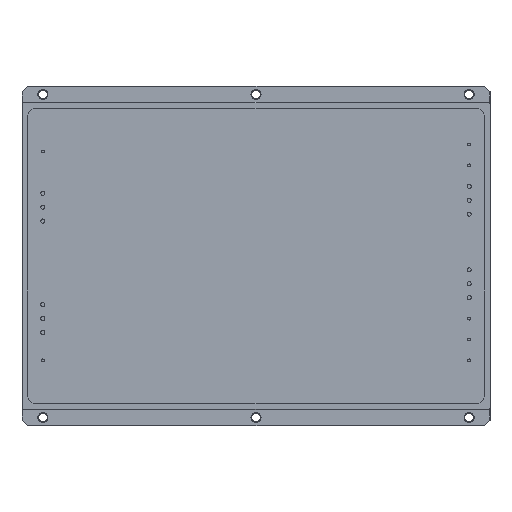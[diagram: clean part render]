
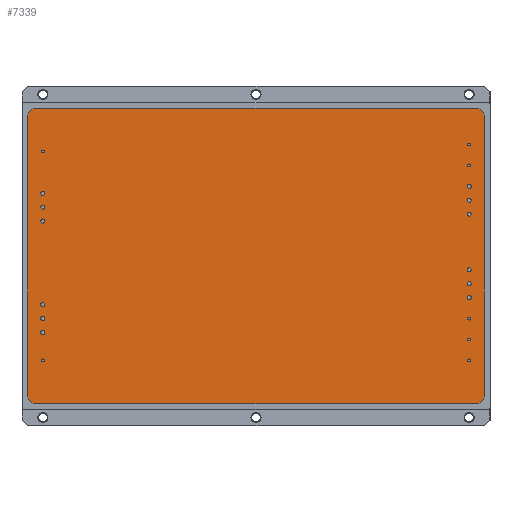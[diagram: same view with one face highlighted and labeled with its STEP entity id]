
A CAD part, top view. The second image highlights one B-rep face of the part: STEP entity #7339.
In plain terms, the highlighted planar face has unit normal (0, 0, 1).
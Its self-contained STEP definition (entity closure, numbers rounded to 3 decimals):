
#7339=ADVANCED_FACE('',(#14017,#14019,#14021,#14023,#14025,#14027,#14029,#14031,
#14033,#14035,#14037,#14039,#14041,#14043,#14045,#14047,#14049,#14051,#14053,#14055),
#14057,.T.);
#14017=FACE_BOUND('',#14018,.T.);
#14018=EDGE_LOOP('',(#19522,#19523,#19524,#19525,#19526,#19527,#19528,#19529));
#14019=FACE_BOUND('',#14020,.T.);
#14020=EDGE_LOOP('',(#19530));
#14021=FACE_BOUND('',#14022,.T.);
#14022=EDGE_LOOP('',(#19531));
#14023=FACE_BOUND('',#14024,.T.);
#14024=EDGE_LOOP('',(#19532));
#14025=FACE_BOUND('',#14026,.T.);
#14026=EDGE_LOOP('',(#19533));
#14027=FACE_BOUND('',#14028,.T.);
#14028=EDGE_LOOP('',(#19534));
#14029=FACE_BOUND('',#14030,.T.);
#14030=EDGE_LOOP('',(#19535));
#14031=FACE_BOUND('',#14032,.T.);
#14032=EDGE_LOOP('',(#19536));
#14033=FACE_BOUND('',#14034,.T.);
#14034=EDGE_LOOP('',(#19537));
#14035=FACE_BOUND('',#14036,.T.);
#14036=EDGE_LOOP('',(#19538));
#14037=FACE_BOUND('',#14038,.T.);
#14038=EDGE_LOOP('',(#19539));
#14039=FACE_BOUND('',#14040,.T.);
#14040=EDGE_LOOP('',(#19540));
#14041=FACE_BOUND('',#14042,.T.);
#14042=EDGE_LOOP('',(#19541));
#14043=FACE_BOUND('',#14044,.T.);
#14044=EDGE_LOOP('',(#19542));
#14045=FACE_BOUND('',#14046,.T.);
#14046=EDGE_LOOP('',(#19543));
#14047=FACE_BOUND('',#14048,.T.);
#14048=EDGE_LOOP('',(#19544));
#14049=FACE_BOUND('',#14050,.T.);
#14050=EDGE_LOOP('',(#19545));
#14051=FACE_BOUND('',#14052,.T.);
#14052=EDGE_LOOP('',(#19546));
#14053=FACE_BOUND('',#14054,.T.);
#14054=EDGE_LOOP('',(#19547));
#14055=FACE_BOUND('',#14056,.T.);
#14056=EDGE_LOOP('',(#19548));
#14057=PLANE('',#14058);
#14058=AXIS2_PLACEMENT_3D('',#14059,#14060,#14061);
#14059=CARTESIAN_POINT('',(0.,0.,15.8));
#14060=DIRECTION('',(0.,0.,1.));
#14061=DIRECTION('',(1.,0.,0.));
#19522=ORIENTED_EDGE('',*,*,#22201,.T.);
#19523=ORIENTED_EDGE('',*,*,#22215,.T.);
#19524=ORIENTED_EDGE('',*,*,#22213,.T.);
#19525=ORIENTED_EDGE('',*,*,#22211,.T.);
#19526=ORIENTED_EDGE('',*,*,#22209,.T.);
#19527=ORIENTED_EDGE('',*,*,#22207,.T.);
#19528=ORIENTED_EDGE('',*,*,#22205,.T.);
#19529=ORIENTED_EDGE('',*,*,#22203,.T.);
#19530=ORIENTED_EDGE('',*,*,#22216,.F.);
#19531=ORIENTED_EDGE('',*,*,#22217,.F.);
#19532=ORIENTED_EDGE('',*,*,#22218,.F.);
#19533=ORIENTED_EDGE('',*,*,#22219,.F.);
#19534=ORIENTED_EDGE('',*,*,#22220,.F.);
#19535=ORIENTED_EDGE('',*,*,#22221,.F.);
#19536=ORIENTED_EDGE('',*,*,#22222,.F.);
#19537=ORIENTED_EDGE('',*,*,#22223,.F.);
#19538=ORIENTED_EDGE('',*,*,#22224,.F.);
#19539=ORIENTED_EDGE('',*,*,#22225,.F.);
#19540=ORIENTED_EDGE('',*,*,#22226,.F.);
#19541=ORIENTED_EDGE('',*,*,#22227,.F.);
#19542=ORIENTED_EDGE('',*,*,#22228,.F.);
#19543=ORIENTED_EDGE('',*,*,#22229,.F.);
#19544=ORIENTED_EDGE('',*,*,#22230,.F.);
#19545=ORIENTED_EDGE('',*,*,#22231,.F.);
#19546=ORIENTED_EDGE('',*,*,#22232,.F.);
#19547=ORIENTED_EDGE('',*,*,#22233,.F.);
#19548=ORIENTED_EDGE('',*,*,#22234,.F.);
#22201=EDGE_CURVE('',#26312,#26310,#26313,.T.);
#22203=EDGE_CURVE('',#26315,#26312,#26316,.T.);
#22205=EDGE_CURVE('',#26318,#26315,#26319,.T.);
#22207=EDGE_CURVE('',#26321,#26318,#26322,.T.);
#22209=EDGE_CURVE('',#26324,#26321,#26325,.T.);
#22211=EDGE_CURVE('',#26327,#26324,#26328,.T.);
#22213=EDGE_CURVE('',#26330,#26327,#26331,.T.);
#22215=EDGE_CURVE('',#26310,#26330,#26333,.T.);
#22216=EDGE_CURVE('',#26334,#26334,#26335,.T.);
#22217=EDGE_CURVE('',#26336,#26336,#26337,.T.);
#22218=EDGE_CURVE('',#26338,#26338,#26339,.T.);
#22219=EDGE_CURVE('',#26340,#26340,#26341,.T.);
#22220=EDGE_CURVE('',#26342,#26342,#26343,.T.);
#22221=EDGE_CURVE('',#26344,#26344,#26345,.T.);
#22222=EDGE_CURVE('',#26346,#26346,#26347,.T.);
#22223=EDGE_CURVE('',#26348,#26348,#26349,.T.);
#22224=EDGE_CURVE('',#26350,#26350,#26351,.T.);
#22225=EDGE_CURVE('',#26352,#26352,#26353,.T.);
#22226=EDGE_CURVE('',#26354,#26354,#26355,.T.);
#22227=EDGE_CURVE('',#26356,#26356,#26357,.T.);
#22228=EDGE_CURVE('',#26358,#26358,#26359,.T.);
#22229=EDGE_CURVE('',#26360,#26360,#26361,.T.);
#22230=EDGE_CURVE('',#26362,#26362,#26363,.T.);
#22231=EDGE_CURVE('',#26364,#26364,#26365,.T.);
#22232=EDGE_CURVE('',#26366,#26366,#26367,.T.);
#22233=EDGE_CURVE('',#26368,#26368,#26369,.T.);
#22234=EDGE_CURVE('',#26370,#26370,#26371,.T.);
#26310=VERTEX_POINT('',#36572);
#26312=VERTEX_POINT('',#36576);
#26313=LINE('',#36577,#36578);
#26315=VERTEX_POINT('',#36583);
#26316=CIRCLE('',#36584,3.);
#26318=VERTEX_POINT('',#36591);
#26319=LINE('',#36592,#36593);
#26321=VERTEX_POINT('',#36598);
#26322=CIRCLE('',#36599,3.);
#26324=VERTEX_POINT('',#36606);
#26325=LINE('',#36607,#36608);
#26327=VERTEX_POINT('',#36613);
#26328=CIRCLE('',#36614,3.);
#26330=VERTEX_POINT('',#36621);
#26331=LINE('',#36622,#36623);
#26333=CIRCLE('',#36628,3.);
#26334=VERTEX_POINT('',#36632);
#26335=CIRCLE('',#36633,0.75);
#26336=VERTEX_POINT('',#36637);
#26337=CIRCLE('',#36638,0.75);
#26338=VERTEX_POINT('',#36642);
#26339=CIRCLE('',#36643,0.75);
#26340=VERTEX_POINT('',#36647);
#26341=CIRCLE('',#36648,0.75);
#26342=VERTEX_POINT('',#36652);
#26343=CIRCLE('',#36653,0.75);
#26344=VERTEX_POINT('',#36657);
#26345=CIRCLE('',#36658,0.75);
#26346=VERTEX_POINT('',#36662);
#26347=CIRCLE('',#36663,0.75);
#26348=VERTEX_POINT('',#36667);
#26349=CIRCLE('',#36668,0.75);
#26350=VERTEX_POINT('',#36672);
#26351=CIRCLE('',#36673,0.75);
#26352=VERTEX_POINT('',#36677);
#26353=CIRCLE('',#36678,0.75);
#26354=VERTEX_POINT('',#36682);
#26355=CIRCLE('',#36683,0.75);
#26356=VERTEX_POINT('',#36687);
#26357=CIRCLE('',#36688,0.75);
#26358=VERTEX_POINT('',#36692);
#26359=CIRCLE('',#36693,0.5);
#26360=VERTEX_POINT('',#36697);
#26361=CIRCLE('',#36698,0.5);
#26362=VERTEX_POINT('',#36702);
#26363=CIRCLE('',#36703,0.5);
#26364=VERTEX_POINT('',#36707);
#26365=CIRCLE('',#36708,0.5);
#26366=VERTEX_POINT('',#36712);
#26367=CIRCLE('',#36713,0.5);
#26368=VERTEX_POINT('',#36717);
#26369=CIRCLE('',#36718,0.5);
#26370=VERTEX_POINT('',#36722);
#26371=CIRCLE('',#36723,0.5);
#36572=CARTESIAN_POINT('',(5.,114.,15.8));
#36576=CARTESIAN_POINT('',(163.,114.,15.8));
#36577=CARTESIAN_POINT('',(163.,114.,15.8));
#36578=VECTOR('',#36579,1.);
#36579=DIRECTION('',(-1.,0.,0.));
#36583=CARTESIAN_POINT('',(166.,111.,15.8));
#36584=AXIS2_PLACEMENT_3D('',#36585,#36586,#36587);
#36585=CARTESIAN_POINT('',(163.,111.,15.8));
#36586=DIRECTION('',(0.,0.,1.));
#36587=DIRECTION('',(1.,0.,0.));
#36591=CARTESIAN_POINT('',(166.,11.,15.8));
#36592=CARTESIAN_POINT('',(166.,11.,15.8));
#36593=VECTOR('',#36594,1.);
#36594=DIRECTION('',(0.,1.,0.));
#36598=CARTESIAN_POINT('',(163.,8.,15.8));
#36599=AXIS2_PLACEMENT_3D('',#36600,#36601,#36602);
#36600=CARTESIAN_POINT('',(163.,11.,15.8));
#36601=DIRECTION('',(0.,0.,1.));
#36602=DIRECTION('',(0.,-1.,0.));
#36606=CARTESIAN_POINT('',(5.,8.,15.8));
#36607=CARTESIAN_POINT('',(5.,8.,15.8));
#36608=VECTOR('',#36609,1.);
#36609=DIRECTION('',(1.,0.,0.));
#36613=CARTESIAN_POINT('',(2.,11.,15.8));
#36614=AXIS2_PLACEMENT_3D('',#36615,#36616,#36617);
#36615=CARTESIAN_POINT('',(5.,11.,15.8));
#36616=DIRECTION('',(0.,0.,1.));
#36617=DIRECTION('',(-1.,0.,0.));
#36621=CARTESIAN_POINT('',(2.,111.,15.8));
#36622=CARTESIAN_POINT('',(2.,111.,15.8));
#36623=VECTOR('',#36624,1.);
#36624=DIRECTION('',(0.,-1.,0.));
#36628=AXIS2_PLACEMENT_3D('',#36629,#36630,#36631);
#36629=CARTESIAN_POINT('',(5.,111.,15.8));
#36630=DIRECTION('',(0.,0.,1.));
#36631=DIRECTION('',(0.,1.,0.));
#36632=CARTESIAN_POINT('',(8.25,73.5,15.8));
#36633=AXIS2_PLACEMENT_3D('',#36634,#36635,#36636);
#36634=CARTESIAN_POINT('',(7.5,73.5,15.8));
#36635=DIRECTION('',(0.,0.,1.));
#36636=DIRECTION('',(1.,0.,0.));
#36637=CARTESIAN_POINT('',(8.25,33.5,15.8));
#36638=AXIS2_PLACEMENT_3D('',#36639,#36640,#36641);
#36639=CARTESIAN_POINT('',(7.5,33.5,15.8));
#36640=DIRECTION('',(0.,0.,1.));
#36641=DIRECTION('',(1.,0.,0.));
#36642=CARTESIAN_POINT('',(8.25,38.5,15.8));
#36643=AXIS2_PLACEMENT_3D('',#36644,#36645,#36646);
#36644=CARTESIAN_POINT('',(7.5,38.5,15.8));
#36645=DIRECTION('',(0.,0.,1.));
#36646=DIRECTION('',(1.,0.,0.));
#36647=CARTESIAN_POINT('',(8.25,43.5,15.8));
#36648=AXIS2_PLACEMENT_3D('',#36649,#36650,#36651);
#36649=CARTESIAN_POINT('',(7.5,43.5,15.8));
#36650=DIRECTION('',(0.,0.,1.));
#36651=DIRECTION('',(1.,0.,0.));
#36652=CARTESIAN_POINT('',(8.25,78.5,15.8));
#36653=AXIS2_PLACEMENT_3D('',#36654,#36655,#36656);
#36654=CARTESIAN_POINT('',(7.5,78.5,15.8));
#36655=DIRECTION('',(0.,0.,1.));
#36656=DIRECTION('',(1.,0.,0.));
#36657=CARTESIAN_POINT('',(8.25,83.5,15.8));
#36658=AXIS2_PLACEMENT_3D('',#36659,#36660,#36661);
#36659=CARTESIAN_POINT('',(7.5,83.5,15.8));
#36660=DIRECTION('',(0.,0.,1.));
#36661=DIRECTION('',(1.,0.,0.));
#36662=CARTESIAN_POINT('',(161.25,86.,15.8));
#36663=AXIS2_PLACEMENT_3D('',#36664,#36665,#36666);
#36664=CARTESIAN_POINT('',(160.5,86.,15.8));
#36665=DIRECTION('',(0.,0.,1.));
#36666=DIRECTION('',(1.,0.,0.));
#36667=CARTESIAN_POINT('',(161.25,81.,15.8));
#36668=AXIS2_PLACEMENT_3D('',#36669,#36670,#36671);
#36669=CARTESIAN_POINT('',(160.5,81.,15.8));
#36670=DIRECTION('',(0.,0.,1.));
#36671=DIRECTION('',(1.,0.,0.));
#36672=CARTESIAN_POINT('',(161.25,76.,15.8));
#36673=AXIS2_PLACEMENT_3D('',#36674,#36675,#36676);
#36674=CARTESIAN_POINT('',(160.5,76.,15.8));
#36675=DIRECTION('',(0.,0.,1.));
#36676=DIRECTION('',(1.,0.,0.));
#36677=CARTESIAN_POINT('',(161.25,56.,15.8));
#36678=AXIS2_PLACEMENT_3D('',#36679,#36680,#36681);
#36679=CARTESIAN_POINT('',(160.5,56.,15.8));
#36680=DIRECTION('',(0.,0.,1.));
#36681=DIRECTION('',(1.,0.,0.));
#36682=CARTESIAN_POINT('',(161.25,51.,15.8));
#36683=AXIS2_PLACEMENT_3D('',#36684,#36685,#36686);
#36684=CARTESIAN_POINT('',(160.5,51.,15.8));
#36685=DIRECTION('',(0.,0.,1.));
#36686=DIRECTION('',(1.,0.,0.));
#36687=CARTESIAN_POINT('',(161.25,46.,15.8));
#36688=AXIS2_PLACEMENT_3D('',#36689,#36690,#36691);
#36689=CARTESIAN_POINT('',(160.5,46.,15.8));
#36690=DIRECTION('',(0.,0.,1.));
#36691=DIRECTION('',(1.,0.,0.));
#36692=CARTESIAN_POINT('',(8.,23.5,15.8));
#36693=AXIS2_PLACEMENT_3D('',#36694,#36695,#36696);
#36694=CARTESIAN_POINT('',(7.5,23.5,15.8));
#36695=DIRECTION('',(0.,0.,1.));
#36696=DIRECTION('',(1.,0.,0.));
#36697=CARTESIAN_POINT('',(8.,98.5,15.8));
#36698=AXIS2_PLACEMENT_3D('',#36699,#36700,#36701);
#36699=CARTESIAN_POINT('',(7.5,98.5,15.8));
#36700=DIRECTION('',(0.,0.,1.));
#36701=DIRECTION('',(1.,0.,0.));
#36702=CARTESIAN_POINT('',(161.,23.5,15.8));
#36703=AXIS2_PLACEMENT_3D('',#36704,#36705,#36706);
#36704=CARTESIAN_POINT('',(160.5,23.5,15.8));
#36705=DIRECTION('',(0.,0.,1.));
#36706=DIRECTION('',(1.,0.,0.));
#36707=CARTESIAN_POINT('',(161.,31.,15.8));
#36708=AXIS2_PLACEMENT_3D('',#36709,#36710,#36711);
#36709=CARTESIAN_POINT('',(160.5,31.,15.8));
#36710=DIRECTION('',(0.,0.,1.));
#36711=DIRECTION('',(1.,0.,0.));
#36712=CARTESIAN_POINT('',(161.,38.5,15.8));
#36713=AXIS2_PLACEMENT_3D('',#36714,#36715,#36716);
#36714=CARTESIAN_POINT('',(160.5,38.5,15.8));
#36715=DIRECTION('',(0.,0.,1.));
#36716=DIRECTION('',(1.,0.,0.));
#36717=CARTESIAN_POINT('',(161.,93.5,15.8));
#36718=AXIS2_PLACEMENT_3D('',#36719,#36720,#36721);
#36719=CARTESIAN_POINT('',(160.5,93.5,15.8));
#36720=DIRECTION('',(0.,0.,1.));
#36721=DIRECTION('',(1.,0.,0.));
#36722=CARTESIAN_POINT('',(161.,101.,15.8));
#36723=AXIS2_PLACEMENT_3D('',#36724,#36725,#36726);
#36724=CARTESIAN_POINT('',(160.5,101.,15.8));
#36725=DIRECTION('',(0.,0.,1.));
#36726=DIRECTION('',(1.,0.,0.));
